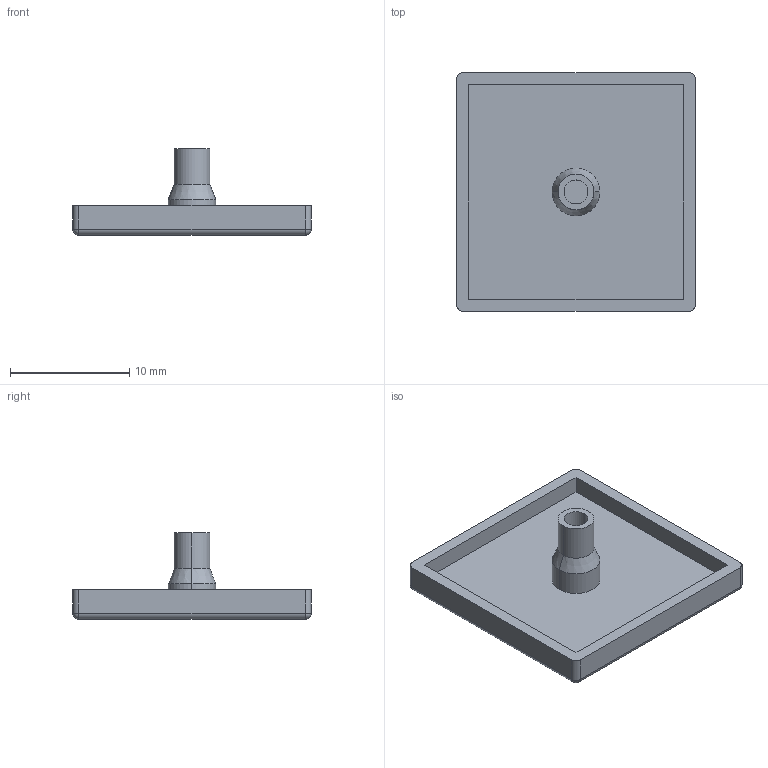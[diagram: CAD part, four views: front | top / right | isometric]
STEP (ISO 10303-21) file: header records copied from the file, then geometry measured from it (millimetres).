
FILE_DESCRIPTION (( 'STEP AP203' ), '1' );
FILE_NAME ('164-CE-CP-2020G.STEP', '2015-07-09T09:11:38', ( '' ), ( '' ), 'SwSTEP 2.0', 'SolidWorks 2013', '' );
FILE_SCHEMA (( 'CONFIG_CONTROL_DESIGN' ));
Length unit declared in the file: millimetre
Products named in the file (1): 164-CE-CP-2020G
Bounding box: 20 x 20 x 7.27 mm (x, y, z)
Volume: 534.8 mm3; surface area: 1207.9 mm2
Topology: 1 solids, 1 shells, 37 faces, 80 edges, 44 vertices
Faces by surface type: cylinder 16, plane 13, cone 4, sphere 4
Entity records: 1039 total; most frequent: DIRECTION 184, CARTESIAN_POINT 158, ORIENTED_EDGE 152, EDGE_CURVE 76, AXIS2_PLACEMENT_3D 70, VECTOR 44, VERTEX_POINT 44, LINE 44
